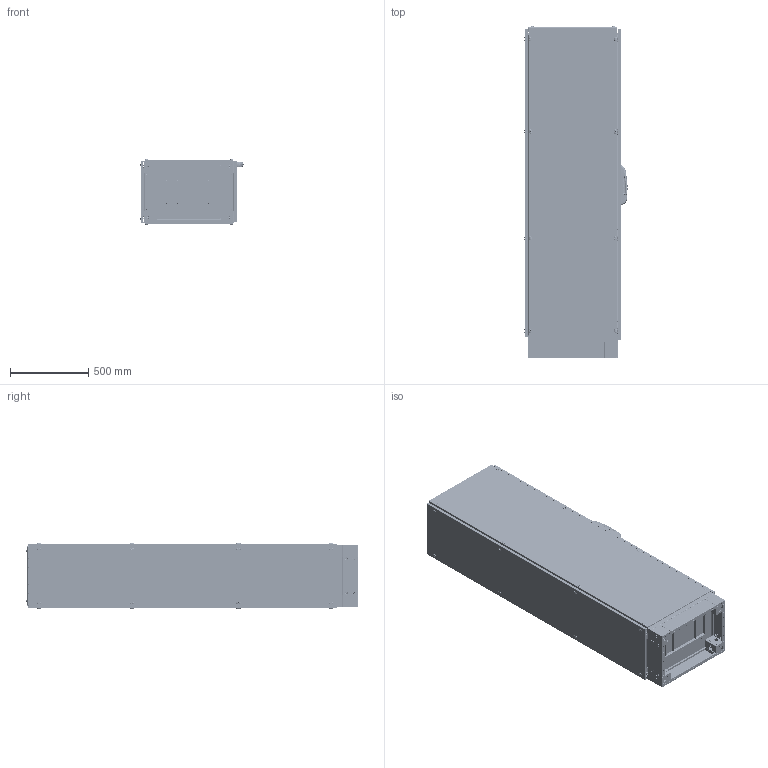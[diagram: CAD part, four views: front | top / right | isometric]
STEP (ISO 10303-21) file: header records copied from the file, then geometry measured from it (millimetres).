
FILE_DESCRIPTION (( 'STEP AP203' ), '1' );
FILE_NAME ('704.206 400x2000x600.STEP', '2020-04-04T13:13:30', ( '' ), ( '' ), 'SwSTEP 2.0', 'SolidWorks 2019', '' );
FILE_SCHEMA (( 'CONFIG_CONTROL_DESIGN' ));
Length unit declared in the file: millimetre
Products named in the file (125): on citaVER3 teos26-12_400; pan cross head_am1_B18.6.7M - M5 x 0.8 x 10 Type I Cross Recessed PHMS --10N; MP 18.7631 yddk_tozkapagi; M6 HAVÞA PLASTÝK CÝVATA; L KOSE DESTEKorj1; V2 -2011 DT BAZA KAPAGI ON_PP 12.0044 - 400; BAZA KÖÞES_SOL; Teos-Neo MP Durdurucu Destek; MP 11.0140 TEOS ALUMINYUM KOSE APPROVED 16.08.2010; BAZA KÖÞES_SAG; TEOS TEK KAPAK REVÝZE_400x2000; MP 18.7631 Gövde-Plastik; PB 14.0004 M6 HAVÞA PLASTÝK CÝVATA; Montaj PlakAsi aaaaa 3mm_400x2000; kose rondela kabartmaSIZ 10; M8 KAFES SOMUN_m8; TEOS Kilit Çubuk Dili; pan head cross recess screw_iso_ISO 7045 - M5 x 10 - Z --- 10C; MP 18.7631 204 handle REV04 tekpan logo; 03taban derinlik percinli_PP 12.0025 - 600; 03-KOSE PUNT; TEOS-NEO MP Sol Dayama; BAZA SISTEMIV2-6 baza kapaðý201550x40_TEKPAN LOGOLU; socket head cap screw_am_B18.3.1M - 8 x 1.25 x 35 Hex SHCS -- 35NHX; 03-TABAN SACI U1 04-2012_PP 12.0039 - 400-75; TEOS Kilit Alt Çubuk Montaj_2000H; TEOS REAR PANEL_703.420 400x2000; mentese orta 09-201; Teos-Neo MP Sol Braket Montaj_Standart Pozisyon; M5 DÝKEY PROFÝL RONDELA; Teos-Neo MP Sað Braket Montaj_Standart Pozisyon; Ust Kapak 2009-10 gecme askili vidalý 1.5 akb rev_PP 12.0002 400X600; TEOS Kilit Üst Çubuk Montaj_2000H; 03-2012 sac kilit dil 10-2010 ORTA; kapali dikey profilkenetli_ita oluklu10-aaaaaaaaaaaa-1_400; 03-TABAN SACI SURGU_PP 12.0029 - 400; socket button head cap screw_am_B18.3.4M - 12 x 1.75 x 30 SBHCS --N; 03-TABAN SACI U1 04-2012_PP 12.0034 - 400-200; kose rondela kabartmaSIZ 12; on Kapi 10-2017 2 mm dkp_PP 17.1093 400x2000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
Assembly tree (385 placements, depth 7):
  704.206 400x2000x600
    TEOS iskelet_400x2000x600
      kapali dikey profilkenetli_ita oluklu10-aaaaaaaaaaaa-1_2000   x4
      kapali dikey profilkenetli_ita oluklu10-aaaaaaaaaaaa-1_600  x4
      kapali dikey profilkenetli_ita oluklu10-aaaaaaaaaaaa-1_400  x4
      L KOSE DESTEKorj1  x8
      kose rondela kabartmaSIZ 10  x15
      kose rondela kabartmaSIZ 12
      MP 11.0140 TEOS ALUMINYUM KOSE APPROVED 16.08.2010  x8
      M5 DÝKEY PROFÝL RONDELA  x16
      percinli taban-vidalý kapak-kose pls yok_701.460-40X60 ALT
        03-taban genislik percinli 04 - 2012 100-120_PP 12.0018 - 400  x2
        03taban derinlik percinli_PP 12.0025 - 600  x2
        03-KOSE PUNT_PP 12.0027
        03-KOSE PUNT
        Mirror03-KOSE PUNT  x2
        TEOS V2 BAZA S嵞TEM廆400X600
          BAZA KÖÞES_SAG
            V2 BAZA KOSESI2015_100
            BAZA SISTEMIV2-6 baza kapaðý201550x40_TEKPAN LOGOLU
            M6 KAFES SOMU2015
              kafes somun kafes
              somu
            M6 KAFES SOMU2015
              kafes somun kafes
              somu
          V2 -2011 DT BAZA KAPAGI ON_PP 12.0044 - 400  x2
          BAZA KÖÞES_SOL
            V2 BAZA KOSESI2015_100
            BAZA SISTEMIV2-6 baza kapaðý201550x40
            M6 KAFES SOMU2015
              kafes somun kafes
              somu
            M6 KAFES SOMU2015
              kafes somun kafes
              somu
          BAZA KÖÞES_SAG
            V2 BAZA KOSESI2015_100
            BAZA SISTEMIV2-6 baza kapaðý201550x40_TEKPAN LOGOLU
            M6 KAFES SOMU2015
              kafes somun kafes
              somu
            M6 KAFES SOMU2015
              kafes somun kafes
              somu
          BAZA KÖÞES_SOL
            V2 BAZA KOSESI2015_100
            BAZA SISTEMIV2-6 baza kapaðý201550x40
            M6 KAFES SOMU2015
              kafes somun kafes
              somu
            M6 KAFES SOMU2015
              kafes somun kafes
              somu
          V3 -2011 DT BAZA KAPAGI yan_PP 12.0051 - 600  x2
          flat head screw_am_B18.6.7M - M6 x 1.0 x 20 Type I Cross Recessed FHMS --20N  x8
        03-TABAN SACI SURGU_PP 12.0029 - 400  x2
        03-TABAN SACI U1 04-2012_PP 12.0039 - 400-75
        03-TABAN SACI U1 04-2012_PP 12.0034 - 400-200
        mp aLT DAYAMA_PP 12.0093 - 600  x2
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Bounding box: 658.09 x 2117.1 x 418.87 mm (x, y, z)
Volume: 16642425.3 mm3; surface area: 17953221.2 mm2
Topology: 332 solids, 372 shells, 50383 faces, 136430 edges, 86486 vertices
Faces by surface type: plane 32108, cylinder 13356, bspline 2211, torus 1139, cone 960, sphere 609
Entity records: 700947 total; most frequent: CARTESIAN_POINT 294150, ORIENTED_EDGE 82756, DIRECTION 76195, EDGE_CURVE 41378, VECTOR 27647, LINE 27647, VERTEX_POINT 26476, AXIS2_PLACEMENT_3D 24274
